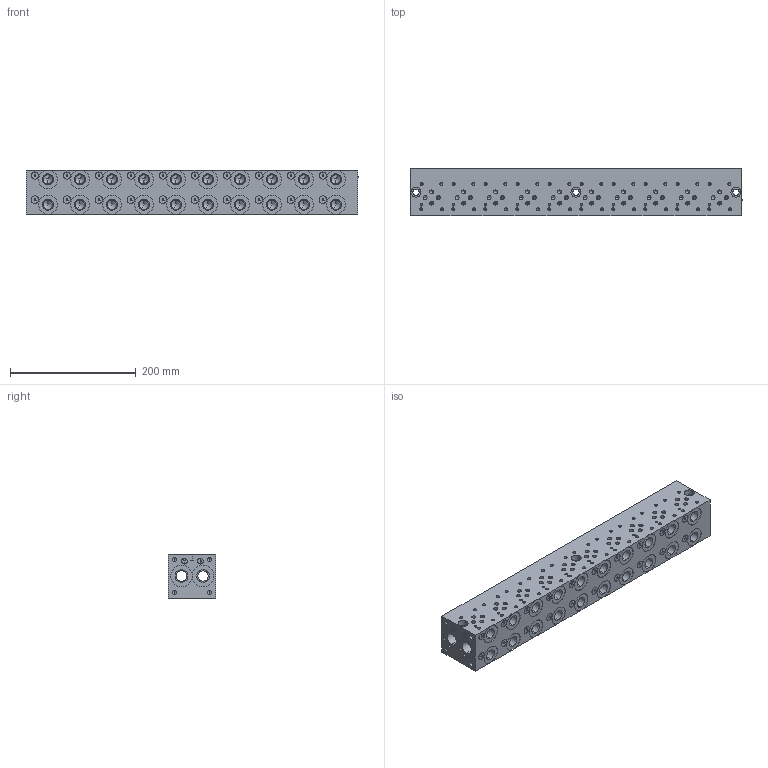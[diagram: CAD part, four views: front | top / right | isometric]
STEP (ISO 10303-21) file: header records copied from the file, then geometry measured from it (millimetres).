
FILE_DESCRIPTION (( 'STEP AP203' ), '1' );
FILE_NAME ('BM-ASP03S2-10-1_Z.STEP', '2015-01-06T15:41:10', ( '' ), ( '' ), 'SwSTEP 2.0', 'SolidWorks 2014', '' );
FILE_SCHEMA (( 'CONFIG_CONTROL_DESIGN' ));
Length unit declared in the file: inch
Products named in the file (1): BM-ASP03S2-10-1_Z
Bounding box: 527.05 x 74.93 x 69.85 mm (x, y, z)
Volume: 2342456.3 mm3; surface area: 285849.9 mm2
Topology: 1 solids, 1 shells, 1231 faces, 3145 edges, 1927 vertices
Faces by surface type: cylinder 492, plane 415, cone 222, bspline 102
Entity records: 44598 total; most frequent: CARTESIAN_POINT 15890, ORIENTED_EDGE 5906, DIRECTION 5729, EDGE_CURVE 2953, AXIS2_PLACEMENT_3D 2080, VERTEX_POINT 1927, LINE 1569, VECTOR 1569
